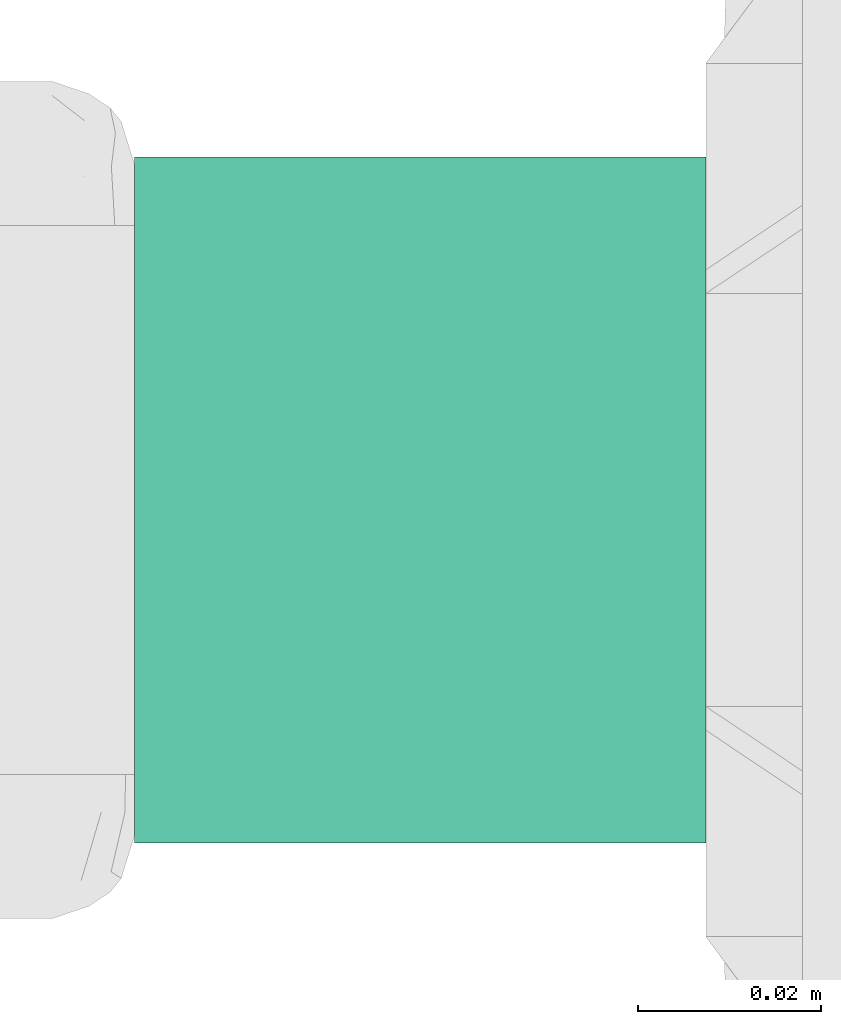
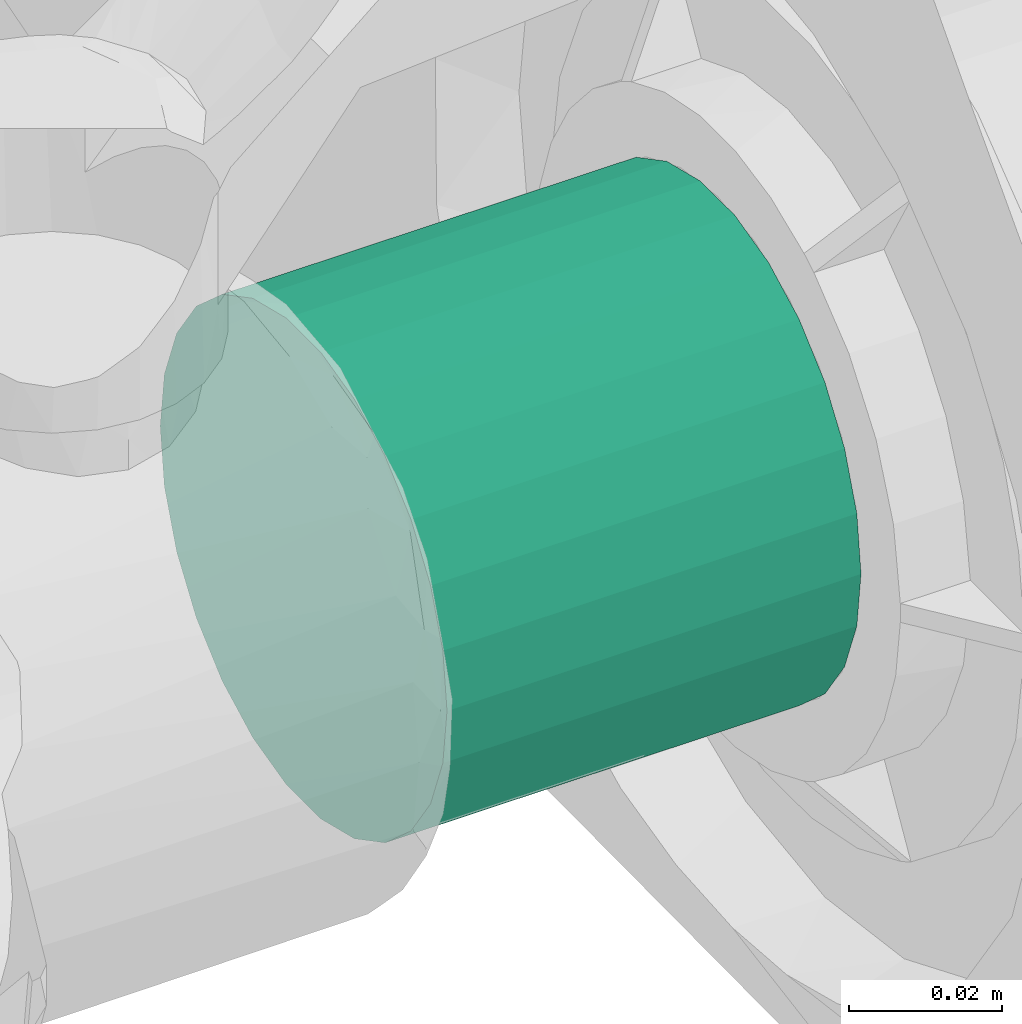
# One storey, part 63 of 166: 1 flow segment.
"""IFC2X3 building model written with IfcOpenShell, lengths in metres."""

import ifcopenshell
import ifcopenshell.guid

model = None  # the IFC model being written
_history = None  # IfcOwnerHistory: only IFC2X3 demands one
_inside = {}  # id of a spatial element -> (the spatial element, [elements in it])
_under = {}  # id of a project, library or spatial element -> (it, [spatial elements below it])
_declared = {}  # id of a project -> (the project, [libraries it declares])
_typed = {}  # id of a type object -> (the type object, [elements of that type])
_made_of = {}  # id of a material, layer set ... -> (it, [elements and type objects made of it])


def new_model(schema):
    """Start an empty IFC model of exactly this schema.

    Asked for "IFC4X3", IfcOpenShell would pick the latest addendum, in which some entities
    have other attributes; the version numbers below select the first issue.
    IFC2X3 requires an IfcOwnerHistory on every rooted entity: one is made here for all.
    """
    global model, _history
    if schema == "IFC4X3":
        model = ifcopenshell.file(schema_version=(4, 3, 0, 0))
    else:
        model = ifcopenshell.file(schema=schema)
    _inside.clear()
    _under.clear()
    _declared.clear()
    _typed.clear()
    _made_of.clear()
    _history = None
    if model.schema == "IFC2X3":
        org = make("IfcOrganization", Name="unknown")
        user = make(
            "IfcPersonAndOrganization",
            ThePerson=make("IfcPerson", FamilyName="unknown"),
            TheOrganization=org,
        )
        app = make(
            "IfcApplication",
            ApplicationDeveloper=org,
            Version="unknown",
            ApplicationFullName="unknown",
            ApplicationIdentifier="unknown",
        )
        _history = make(
            "IfcOwnerHistory",
            OwningUser=user,
            OwningApplication=app,
            ChangeAction="ADDED",
            CreationDate=0,
        )
    return model


def make(cls, **values):
    """One entity of the class cls with the attributes given. An attribute that is None is left unset."""
    return model.create_entity(
        cls, **{name: value for name, value in values.items() if value is not None}
    )


def entity(cls, *values):
    """Any entity or typed value of the class cls, its attributes in the order of the schema. None: left unset."""
    e = model.create_entity(cls)
    for i, value in enumerate(values):
        if value is not None:
            e[i] = value
    return e


def rooted(cls, **values):
    """An entity with a GlobalId (a new one), such as an element, a storey or a relation."""
    return make(cls, GlobalId=ifcopenshell.guid.new(), OwnerHistory=_history, **values)


def si_unit(unit_type, name, prefix=None):
    """IfcSIUnit, for example si_unit("LENGTHUNIT", "METRE", prefix="MILLI")."""
    return make("IfcSIUnit", UnitType=unit_type, Prefix=prefix, Name=name)


def converted_unit(unit_type, name, factor, base, dimensions=None, offset=None):
    """IfcConversionBasedUnit, such as the inch: factor (a typed value) times the base unit."""
    return make(
        "IfcConversionBasedUnit"
        if offset is None
        else "IfcConversionBasedUnitWithOffset",
        ConversionOffset=offset,
        Dimensions=None
        if dimensions is None
        else entity("IfcDimensionalExponents", *dimensions),
        UnitType=unit_type,
        Name=name,
        ConversionFactor=make(
            "IfcMeasureWithUnit", ValueComponent=factor, UnitComponent=base
        ),
    )


def assignment(units):
    """IfcUnitAssignment: the units of a project."""
    return None if units is None else make("IfcUnitAssignment", Units=units)


def point(xyz):
    """IfcCartesianPoint."""
    return None if xyz is None else make("IfcCartesianPoint", Coordinates=xyz)


def direction(xyz):
    """IfcDirection."""
    return None if xyz is None else make("IfcDirection", DirectionRatios=xyz)


def frame(location, z_axis=None, x_axis=None):
    """IfcAxis2Placement3D, a coordinate frame: its origin and axes. An axis left out is left unset."""
    return make(
        "IfcAxis2Placement3D",
        Location=point(location),
        Axis=direction(z_axis),
        RefDirection=direction(x_axis),
    )


def frame_2d(location, x_axis=None):
    """IfcAxis2Placement2D, a coordinate frame in the plane: its origin and x axis."""
    return make(
        "IfcAxis2Placement2D", Location=point(location), RefDirection=direction(x_axis)
    )


def origin():
    """The frame at (0, 0, 0) with its axes left unset."""
    return frame((0.0, 0.0, 0.0))


def origin_2d_with_axis():
    """The frame at (0, 0) in the plane with the x axis (1, 0) written out."""
    return frame_2d((0.0, 0.0), x_axis=(1.0, 0.0))


def place(relative_to, where):
    """IfcLocalPlacement: puts the frame where relative to a parent placement (None: the world)."""
    return make(
        "IfcLocalPlacement", PlacementRelTo=relative_to, RelativePlacement=where
    )


def context(
    kind, dimensions, precision=None, world=None, true_north=None, identifier=None
):
    """IfcGeometricRepresentationContext, for example the 3D "Model" context."""
    return make(
        "IfcGeometricRepresentationContext",
        ContextIdentifier=identifier,
        ContextType=kind,
        CoordinateSpaceDimension=dimensions,
        Precision=precision,
        WorldCoordinateSystem=world,
        TrueNorth=true_north,
    )


def subcontext(parent, identifier, kind, view, scale=None):
    """IfcGeometricRepresentationSubContext, for example "Body" below "Model"."""
    return make(
        "IfcGeometricRepresentationSubContext",
        ContextIdentifier=identifier,
        ContextType=kind,
        ParentContext=parent,
        TargetScale=scale,
        TargetView=view,
    )


def project(units=None, contexts=None):
    """IfcProject with its units and contexts."""
    return rooted(
        "IfcProject",
        Name="project",
        RepresentationContexts=contexts,
        UnitsInContext=assignment(units),
    )


def spatial(cls, under=None, at=None, **own):
    """A site, building, storey or space (cls), placed at a placement, below another one or the project."""
    s = rooted(cls, ObjectPlacement=at, **own)
    if under is not None:
        _under.setdefault(under.id(), (under, []))[1].append(s)
    return s


def profile(cls, at=None, kind="AREA", **sizes):
    """A parametric profile (cls). Its sizes go by their IFC names, for example OverallWidth=200.0."""
    return make(cls, ProfileType=kind, Position=at, **sizes)


def circle(**sizes):
    """IfcCircleProfileDef."""
    return profile("IfcCircleProfileDef", **sizes)


def extrude(swept, where, along, depth):
    """IfcExtrudedAreaSolid: the profile swept, set in the frame where, extruded along a direction by depth."""
    return make(
        "IfcExtrudedAreaSolid",
        SweptArea=swept,
        Position=where,
        ExtrudedDirection=direction(along),
        Depth=depth,
    )


def shape(context_of_items, identifier, shape_type, items):
    """IfcShapeRepresentation: the items that make up one representation, for example the "Body"."""
    return make(
        "IfcShapeRepresentation",
        ContextOfItems=context_of_items,
        RepresentationIdentifier=identifier,
        RepresentationType=shape_type,
        Items=items,
    )


def made_of(thing, what):
    """Note that an element or type object is made of a material, layer set ...; save() writes the relation."""
    if what is not None:
        _made_of.setdefault(what.id(), (what, []))[1].append(thing)
    return thing


def type_object(cls, material=None, **own):
    """A type object (cls), such as IfcWallType, which elements share."""
    return made_of(rooted(cls, **own), material)


def element(
    cls,
    number,
    at=None,
    inside=None,
    cuts=None,
    type_object=None,
    material=None,
    context=None,
    identifier="Body",
    shape_type=None,
    held_by="IfcProductDefinitionShape",
    body=None,
    shapes=None,
    **own,
):
    """One element of the class cls, such as IfcWall. Its Tag is "e" and its number.

    at: its placement. inside: the storey or other place that contains it. cuts: it is an
    opening in that element (IfcRelVoidsElement). A single representation is given by context,
    identifier, shape_type and body (its items); several are given by shapes. held_by: the class
    of the entity that holds the representations. save() writes the other relations.
    """
    e = rooted(cls, Tag="e%d" % number, ObjectPlacement=at, **own)
    if body is not None:
        shapes = [shape(context, identifier, shape_type, body)]
    if shapes is not None:
        e.Representation = make(held_by, Representations=shapes)
    if inside is not None:
        _inside.setdefault(inside.id(), (inside, []))[1].append(e)
    if cuts is not None:
        rooted(
            "IfcRelVoidsElement", RelatingBuildingElement=cuts, RelatedOpeningElement=e
        )
    if type_object is not None:
        _typed.setdefault(type_object.id(), (type_object, []))[1].append(e)
    return made_of(e, material)


def aggregate(whole, parts):
    """IfcRelAggregates: a whole, such as a stair, and the parts it consists of."""
    return rooted("IfcRelAggregates", RelatingObject=whole, RelatedObjects=parts)


def save(model, path):
    """Write the relations noted so far, then the file.

    IfcRelAggregates (storeys below a building ...), IfcRelContainedInSpatialStructure (elements
    in a storey), IfcRelDefinesByType, IfcRelAssociatesMaterial and IfcRelDeclares: one each for
    every whole, place, type object, material and project.
    """
    for whole, parts in _under.values():
        aggregate(whole, parts)
    for where, things in _inside.values():
        rooted(
            "IfcRelContainedInSpatialStructure",
            RelatedElements=things,
            RelatingStructure=where,
        )
    for kind, things in _typed.values():
        rooted("IfcRelDefinesByType", RelatedObjects=things, RelatingType=kind)
    for what, things in _made_of.values():
        rooted("IfcRelAssociatesMaterial", RelatedObjects=things, RelatingMaterial=what)
    for by, libraries in _declared.values():
        rooted("IfcRelDeclares", RelatingContext=by, RelatedDefinitions=libraries)
    model.write(path)


model = new_model("IFC2X3")

# Units and contexts
model_context = context("Model", 3, precision=1e-05, world=origin(), true_north=direction((6.123233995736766e-17, 1.0)))
body_context = subcontext(model_context, "Body", "Model", "MODEL_VIEW")
ifc_project = project(units=[si_unit("LENGTHUNIT", "METRE"), converted_unit("PLANEANGLEUNIT", "DEGREE", entity("IfcPlaneAngleMeasure", 0.017453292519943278), si_unit("PLANEANGLEUNIT", "RADIAN"), dimensions=[0, 0, 0, 0, 0, 0, 0]), si_unit("AREAUNIT", "SQUARE_METRE")], contexts=[model_context])

# Site, building, storey
site_placement = place(None, origin())
site = spatial("IfcSite", under=ifc_project, at=site_placement, Name="Default", CompositionType="ELEMENT")
building_placement = place(site_placement, origin())
building = spatial("IfcBuilding", under=site, at=building_placement, Name="CASA DE ACOLHIDA PARA IDOSOS", CompositionType="ELEMENT")
storey_placement = place(building_placement, frame((0.0, 0.0, -1.7499999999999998)))
storey = spatial("IfcBuildingStorey", under=building, at=storey_placement, Name="IMPLANTAÇÃO DRENAGEM", CompositionType="ELEMENT", Elevation=-1.7499999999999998)

# Flow segment
pipe_segment_type = type_object("IfcPipeSegmentType", Name="Tipos de tubos:AF_Tubo Branco Roscável", PredefinedType="NOTDEFINED")
flow_segment_placement = place(storey_placement, origin())
element("IfcFlowSegment", 1, at=flow_segment_placement, inside=storey, type_object=pipe_segment_type, Name="Tipos de tubos:AF_Tubo Branco Roscável", ObjectType="Tipos de tubos:AF_Tubo Branco Roscável", context=body_context, shape_type="SweptSolid", body=[
    extrude(circle(Radius=0.037500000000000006, at=origin_2d_with_axis()), frame((-64.40761711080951, 1.7406218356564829, 0.13343317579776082), z_axis=(1.0, 0.0, 0.0), x_axis=(0.0, 1.0, 0.0)), (0.0, 0.0, 1.0), 0.06250705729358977),
])

save(model, "model.ifc")
